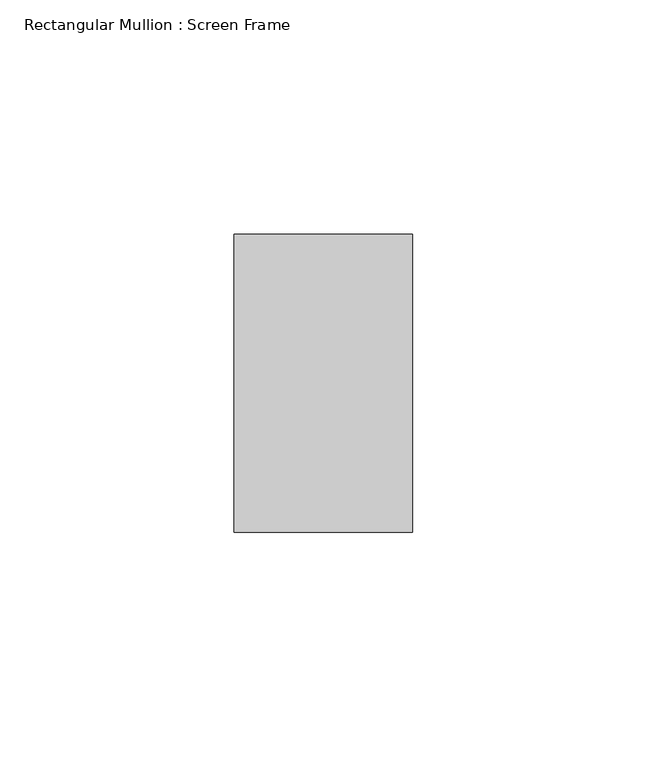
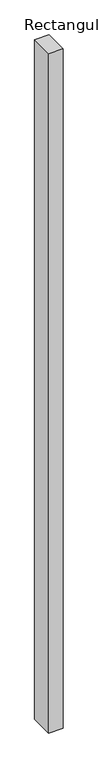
"""IFC4 building model written with IfcOpenShell, lengths in millimetres: member geometry, Rectangular Mullion : Screen Frame."""

from ifc_helpers import new_model, si_unit, frame, origin, place, context, project, spatial, polyline, outline, extrude, source, transform, mapped, element, save


def rectangular_mullion_screen_frame_60373731(model_context):
    return source(origin(), model_context, "Body", "SweptSolid", [
        extrude(outline(polyline([(0.0, 31.75), (0.0, -31.75), (-38.1, -31.75), (-38.1, 31.75), (0.0, 31.75)])), frame((0.0, 0.0, -1890.9692851), z_axis=(0.0, 0.0, 1.0), x_axis=(1.0, 0.0, 0.0)), (0.0, 0.0, 1.0), 1890.9692851),
    ])


if __name__ == "__main__":
    model = new_model("IFC4")
    model_context = context("Model", 3, world=origin())
    ifc_project = project(units=[si_unit("LENGTHUNIT", "METRE", prefix="MILLI")], contexts=[model_context])
    site = spatial("IfcSite", under=ifc_project)
    building = spatial("IfcBuilding", under=site)
    placement = place(None, origin())
    rectangular_mullion_screen_frame_shape = rectangular_mullion_screen_frame_60373731(model_context)
    element("IfcMember", 1, ObjectType="Rectangular Mullion : Screen Frame", at=placement, inside=building, context=model_context, shape_type="MappedRepresentation", body=[
        mapped(rectangular_mullion_screen_frame_shape, transform((0.0, 0.0, 0.0), x_axis=(1.0, 0.0, 0.0), y_axis=(0.0, 1.0, 0.0), z_axis=(0.0, 0.0, 1.0))),
    ])
    save(model, "model.ifc")
